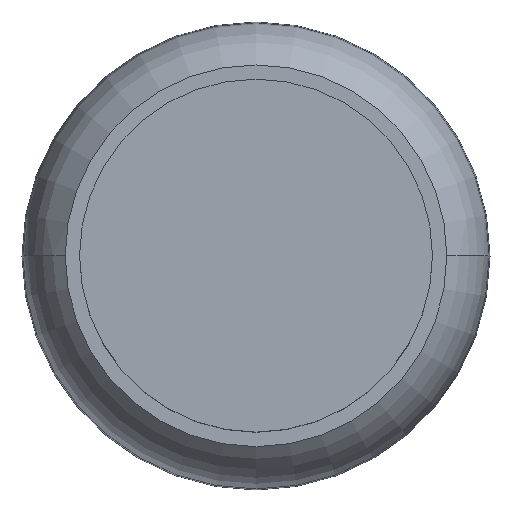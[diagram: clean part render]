
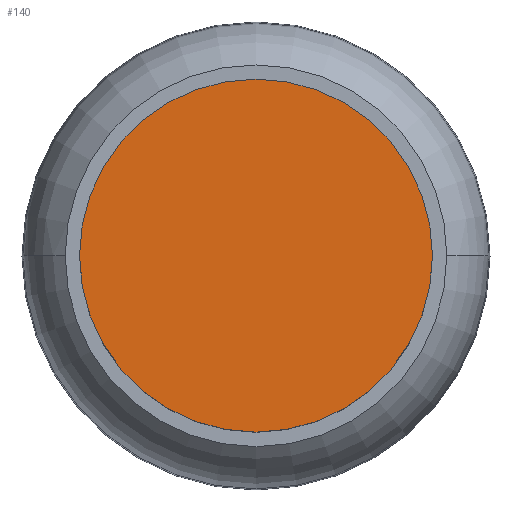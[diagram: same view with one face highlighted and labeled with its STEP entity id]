
A CAD part, top view. The second image highlights one B-rep face of the part: STEP entity #140.
In plain terms, the highlighted planar face has unit normal (0, 0, 1).
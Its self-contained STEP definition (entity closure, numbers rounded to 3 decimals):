
#140 = ADVANCED_FACE( '', ( #278 ), #279, .T. );
#278 = FACE_OUTER_BOUND( '', #416, .T. );
#279 = PLANE( '', #417 );
#416 = EDGE_LOOP( '', ( #951, #952 ) );
#417 = AXIS2_PLACEMENT_3D( '', #953, #954, #955 );
#951 = ORIENTED_EDGE( '', *, *, #959, .T. );
#952 = ORIENTED_EDGE( '', *, *, #1125, .T. );
#953 = CARTESIAN_POINT( '', ( 0., 5.6, 35.4 ) );
#954 = DIRECTION( '', ( 0., 0., 1. ) );
#955 = DIRECTION( '', ( 0., 1., 0. ) );
#959 = EDGE_CURVE( '', #1127, #1131, #1133, .T. );
#1125 = EDGE_CURVE( '', #1131, #1127, #1407, .T. );
#1127 = VERTEX_POINT( '', #1409 );
#1131 = VERTEX_POINT( '', #1414 );
#1133 = CIRCLE( '', #1417, 11.2 );
#1407 = CIRCLE( '', #1911, 11.2 );
#1409 = CARTESIAN_POINT( '', ( 0., 11.2, 35.4 ) );
#1414 = CARTESIAN_POINT( '', ( 0., -11.2, 35.4 ) );
#1417 = AXIS2_PLACEMENT_3D( '', #1917, #1918, #1919 );
#1911 = AXIS2_PLACEMENT_3D( '', #2221, #2222, #2223 );
#1917 = CARTESIAN_POINT( '', ( 0., 0., 35.4 ) );
#1918 = DIRECTION( '', ( 0., 0., 1. ) );
#1919 = DIRECTION( '', ( 0., 1., 0. ) );
#2221 = CARTESIAN_POINT( '', ( 0., 0., 35.4 ) );
#2222 = DIRECTION( '', ( 0., 0., 1. ) );
#2223 = DIRECTION( '', ( 0., 1., 0. ) );
